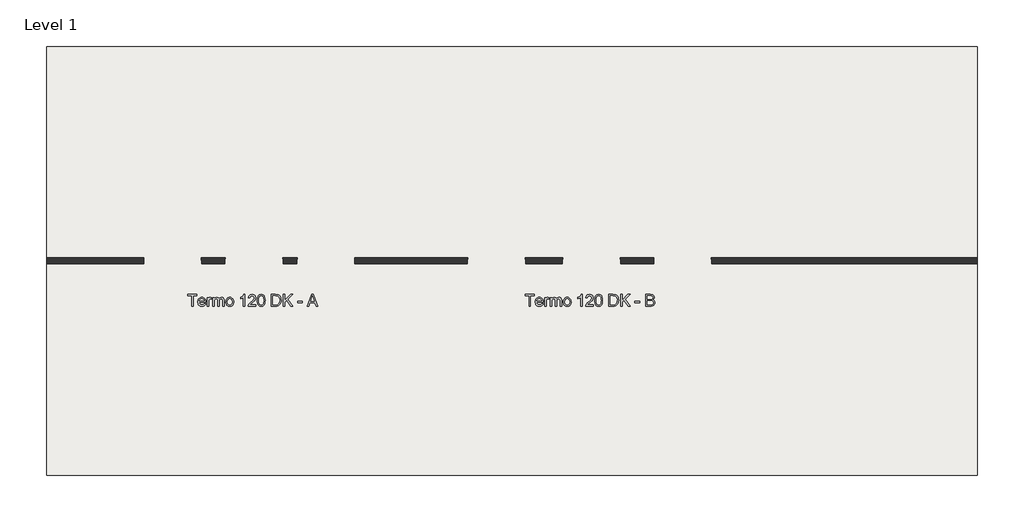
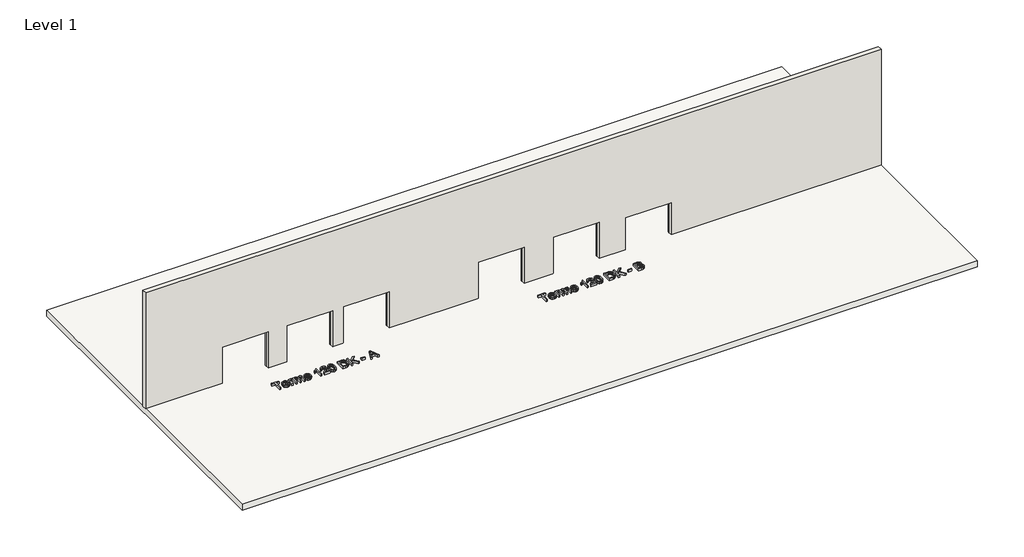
# One storey, incomplete: 2 proxies, 1 slab, 1 wall.
"""IFC4 building model written with IfcOpenShell, lengths in millimetres."""

from ifc_helpers import new_model, si_unit, frame, origin, origin_with_axes, place, context, project, spatial, polyline, outline, extrude, faceted_brep, element, save

model = new_model("IFC4")

# Units and contexts
model_context = context("Model", 3, world=origin())
ifc_project = project(units=[si_unit("LENGTHUNIT", "METRE", prefix="MILLI")], contexts=[model_context])

# Site, building, storey
site = spatial("IfcSite", under=ifc_project)
building = spatial("IfcBuilding", under=site)
storey = spatial("IfcBuildingStorey", under=building, Name="Level 1", Elevation=0.0)

# Proxies
placement = place(None, origin())
element("IfcBuildingElementProxy", 1, Name="600mm Arial", ObjectType="600mm Arial", at=placement, inside=storey, context=model_context, shape_type="SweptSolid", body=[
    extrude(outline(polyline([(-16765.2081941, -2366.0717314), (-16765.2081941, -1838.6761031), (-16962.9815547, -1838.6761031), (-16962.9815547, -1763.3338705), (-16492.0926009, -1763.3338705), (-16492.0926009, -1838.6761031), (-16689.8659615, -1838.6761031), (-16689.8659615, -2366.0717314), (-16765.2081941, -2366.0717314)])), origin_with_axes(), (0.0, 0.0, 1.0), 150.0),
    extrude(outline(polyline([(-16106.8465755, -2234.2228243), (-16032.9758709, -2243.6406034), (-16044.3020378, -2273.2275129), (-16059.5921333, -2299.3011493), (-16078.8461572, -2321.8615127), (-16102.0641096, -2340.908603), (-16129.0068672, -2356.03775), (-16159.4353068, -2366.8442836), (-16193.3494282, -2373.3282038), (-16230.7492315, -2375.4895105), (-16277.4978361, -2371.7601068), (-16319.151275, -2360.5718956), (-16355.7095482, -2341.924877), (-16387.1726559, -2315.8190509), (-16412.4737401, -2282.9809843), (-16430.5459431, -2244.1372441), (-16441.3892649, -2199.2878304), (-16445.0037055, -2148.4327431), (-16441.3524767, -2095.8532089), (-16430.3987903, -2049.5092746), (-16412.1426463, -2009.40094), (-16386.5840447, -1975.5282053), (-16355.2037105, -1948.6176374), (-16319.4823688, -1929.3958031), (-16279.4200195, -1917.8627026), (-16235.0166627, -1914.0183357), (-16192.0434471, -1917.8535055), (-16153.1813128, -1929.3590149), (-16118.4302599, -1948.5348639), (-16087.7902882, -1975.3810525), (-16062.778911, -2009.1802108), (-16044.9136417, -2049.214969), (-16034.19448, -2095.4853269), (-16030.6214261, -2147.9912847), (-16031.0628845, -2168.2983708), (-16369.6614729, -2168.2983708), (-16365.2974727, -2198.3635269), (-16356.6200562, -2224.6946807), (-16343.6292232, -2247.2918322), (-16326.3249739, -2266.1549815), (-16305.6638013, -2281.0266112), (-16282.6021987, -2291.6492038), (-16257.1401661, -2298.0227594), (-16229.2777035, -2300.1472779), (-16189.1785661, -2296.2109405), (-16155.4069989, -2284.4019285), (-16127.9630021, -2263.9844778), (-16106.8465755, -2234.2228243)]), holes=[polyline([(-16369.6614729, -2092.9561382), (-16105.9636588, -2092.9561382), (-16116.15399, -2053.1513063), (-16124.9187786, -2037.4979274), (-16136.1299824, -2024.6772399), (-16156.6761918, -2009.2261961), (-16180.0550926, -1998.1897362), (-16206.2666847, -1991.5678603), (-16235.3109683, -1989.3605684), (-16261.8030704, -1991.1218034), (-16286.0970777, -1996.4055086), (-16308.19299, -2005.2116838), (-16328.0908074, -2017.5403292), (-16344.7880515, -2032.8212276), (-16357.2822438, -2050.4841619), (-16365.5733842, -2070.5291321), (-16369.6614729, -2092.9561382)])]), origin_with_axes(), (0.0, 0.0, 1.0), 150.0),
    extrude(outline(polyline([(-15955.2791935, -2366.0717314), (-15955.2791935, -1923.4361148), (-15889.35474, -1923.4361148), (-15889.35474, -1988.91911), (-15865.0009519, -1950.9536881), (-15842.5601502, -1928.5864628), (-15820.0457721, -1917.6603675), (-15795.4712548, -1914.0183357), (-15757.9472913, -1919.8308713), (-15719.8347166, -1937.2684778), (-15744.9978451, -2004.8116122), (-15771.4853487, -1993.2233293), (-15797.9728524, -1989.3605684), (-15820.4688364, -1993.0761765), (-15840.5735874, -2004.223001), (-15856.8155775, -2021.9549131), (-15867.7232787, -2045.4257844), (-15876.8835404, -2087.5114847), (-15879.9369609, -2133.4231577), (-15879.9369609, -2366.0717314), (-15955.2791935, -2366.0717314)])), origin_with_axes(), (0.0, 0.0, 1.0), 150.0),
    extrude(outline(polyline([(-15672.7458212, -2366.0717314), (-15672.7458212, -1923.4361148), (-15597.4035886, -1923.4361148), (-15597.4035886, -1996.2767499), (-15574.7420577, -1962.8178824), (-15545.6058037, -1936.6062903), (-15510.988108, -1919.6653244), (-15471.8822519, -1914.0183357), (-15429.9804926, -1919.775689), (-15412.1474129, -1926.9723805), (-15396.3928665, -1937.0477486), (-15371.3033144, -1964.6940806), (-15354.8957774, -2001.5742506), (-15327.4333865, -1963.2685379), (-15296.1082346, -1935.9073145), (-15260.9203217, -1919.4905804), (-15221.8696479, -1914.0183357), (-15191.7079229, -1916.2946056), (-15165.2342148, -1923.1234151), (-15142.4485237, -1934.5047644), (-15123.3508496, -1950.4386533), (-15108.2538923, -1971.1090229), (-15097.4703513, -1996.6998142), (-15091.0002267, -2027.2110271), (-15088.8435185, -2062.6426618), (-15088.8435185, -2366.0717314), (-15164.1857511, -2366.0717314), (-15164.1857511, -2095.0162774), (-15165.9331906, -2057.4371316), (-15171.175509, -2032.1084562), (-15180.9979583, -2014.7628201), (-15196.4857903, -2001.1327922), (-15216.4066003, -1992.3036243), (-15239.5279837, -1989.3605684), (-15260.878935, -1991.2459636), (-15280.3444911, -1996.9021493), (-15297.9246519, -2006.3291254), (-15313.6194175, -2019.526892), (-15326.5274771, -2036.8817251), (-15335.7475196, -2058.7799008), (-15341.2795451, -2085.2214193), (-15343.1235536, -2116.2062803), (-15343.1235536, -2366.0717314), (-15418.4657862, -2366.0717314), (-15418.4657862, -2086.6285679), (-15422.8251878, -2044.0278328), (-15428.2744399, -2027.3075962), (-15435.9033927, -2013.64078), (-15446.0155491, -2003.0181874), (-15458.9144115, -1995.4306213), (-15474.5999801, -1990.8780816), (-15493.0722548, -1989.3605684), (-15522.0981442, -1993.4072703), (-15548.8431653, -2005.5473761), (-15570.916085, -2025.4865803), (-15585.9256704, -2052.9305771), (-15594.5341091, -2091.0063636), (-15597.4035886, -2142.8409367), (-15597.4035886, -2366.0717314), (-15672.7458212, -2366.0717314)])), origin_with_axes(), (0.0, 0.0, 1.0), 150.0),
    extrude(outline(polyline([(-14994.6657277, -2144.7539231), (-14990.5914346, -2087.4287112), (-14978.3685553, -2038.0313563), (-14957.9970899, -1996.5618584), (-14929.4770382, -1963.0202175), (-14900.7638485, -1941.5818942), (-14869.0708146, -1926.2688062), (-14834.3979365, -1917.0809534), (-14796.7452143, -1914.0183357), (-14755.1791474, -1917.7477395), (-14717.5954031, -1928.9359507), (-14683.9939813, -1947.5829693), (-14654.3748822, -1973.6887954), (-14630.2004366, -2006.3705121), (-14612.9329754, -2044.7452027), (-14602.5724987, -2088.8128672), (-14599.1190065, -2138.5735056), (-14600.6457168, -2178.9025693), (-14605.2258476, -2214.6882904), (-14612.859399, -2245.9306688), (-14623.546371, -2272.6297046), (-14637.1534063, -2295.6913072), (-14653.5471477, -2316.021386), (-14672.7275952, -2333.6199409), (-14694.6947489, -2348.4869721), (-14718.593283, -2360.3005826), (-14743.5678719, -2368.7388759), (-14769.6185157, -2373.8018518), (-14796.7452143, -2375.4895105), (-14838.9182865, -2371.7739023), (-14876.8515188, -2360.6270779), (-14910.544911, -2342.0490371), (-14939.9984632, -2316.0397801), (-14963.9153915, -2283.0407651), (-14980.9989116, -2243.4934506), (-14991.2490237, -2197.3978366), (-14994.6657277, -2144.7539231)]), holes=[polyline([(-14919.3234951, -2144.6067703), (-14917.1437943, -2181.151248), (-14910.6046918, -2212.7936981), (-14899.7061877, -2239.5341207), (-14884.448282, -2261.3725156), (-14865.8886353, -2278.3364741), (-14845.0849085, -2290.4535873), (-14822.0371015, -2297.7238552), (-14796.7452143, -2300.1472779), (-14771.5820859, -2297.7100597), (-14748.6262494, -2290.398405), (-14727.8777048, -2278.2123139), (-14709.3364523, -2261.1517864), (-14694.0785465, -2239.0972608), (-14683.1800424, -2211.9291754), (-14676.6409399, -2179.6475304), (-14674.4612391, -2142.2523256), (-14676.6547355, -2106.8666761), (-14683.2352247, -2076.0519605), (-14694.2027067, -2049.8081787), (-14709.5571815, -2028.1353307), (-14728.1674119, -2011.1713721), (-14748.9021608, -1999.0542589), (-14771.7614283, -1991.783991), (-14796.7452143, -1989.3605684), (-14822.0371015, -1991.774794), (-14845.0849085, -1999.0174707), (-14865.8886353, -2011.0885987), (-14884.448282, -2027.9881779), (-14899.7061877, -2049.7621934), (-14910.6046918, -2076.4566307), (-14917.1437943, -2108.0714897), (-14919.3234951, -2144.6067703)])]), origin_with_axes(), (0.0, 0.0, 1.0), 150.0),
    extrude(outline(polyline([(-14015.2167038, -2366.0717314), (-14090.5589364, -2366.0717314), (-14090.5589364, -1896.36), (-14122.012847, -1921.7990399), (-14161.9280434, -1947.2012917), (-14203.8298027, -1969.4029701), (-14241.2434016, -1985.24029), (-14241.2434016, -1914.0183357), (-14182.0695827, -1881.8286612), (-14130.8052267, -1843.5321455), (-14090.3933895, -1802.8076086), (-14063.7771271, -1763.3338705), (-14015.2167038, -1763.3338705), (-14015.2167038, -2366.0717314)])), origin_with_axes(), (0.0, 0.0, 1.0), 150.0),
    extrude(outline(polyline([(-13450.1499592, -2290.7294988), (-13450.1499592, -2366.0717314), (-13845.6966804, -2366.0717314), (-13844.0412114, -2339.5474396), (-13837.6032765, -2314.1267937), (-13819.0252357, -2273.5310155), (-13791.8387563, -2234.149248), (-13752.512171, -2192.9280704), (-13697.5138127, -2146.8140623), (-13616.2118918, -2074.5988266), (-13567.4307392, -2021.2927255), (-13553.2029031, -1999.5141114), (-13543.040163, -1978.0298029), (-13536.9425189, -1956.8398), (-13534.9099709, -1935.9441027), (-13536.8275558, -1916.2854085), (-13542.5803105, -1898.2178041), (-13552.168235, -1881.7412892), (-13565.5913293, -1866.855864), (-13582.1046323, -1854.5272186), (-13600.9631831, -1845.7210433), (-13622.1669816, -1840.4373382), (-13645.7160278, -1838.6761031), (-13670.5250699, -1840.3959515), (-13692.7129527, -1845.5554964), (-13712.2796763, -1854.1547381), (-13729.2252407, -1866.1936764), (-13742.9334436, -1881.2676411), (-13752.7880825, -1898.9719621), (-13758.7891576, -1919.3066394), (-13760.9366687, -1942.271673), (-13836.2789013, -1932.8538939), (-13829.7995797, -1893.95957), (-13818.0135603, -1859.9764707), (-13800.9208431, -1830.904596), (-13778.5214281, -1806.743946), (-13751.3303501, -1787.752038), (-13719.8626439, -1774.1863894), (-13684.1183096, -1766.0470002), (-13644.097347, -1763.3338705), (-13603.7176995, -1766.3505029), (-13567.7802271, -1775.4004), (-13536.2849298, -1790.4835618), (-13509.2318076, -1811.5999883), (-13487.5037773, -1837.1861811), (-13471.9837556, -1865.6786416), (-13462.6717426, -1897.0773699), (-13459.5677383, -1931.3823659), (-13462.9154644, -1967.4164073), (-13472.9586429, -2002.8250494), (-13490.7825255, -2038.8406967), (-13517.4723643, -2076.695754), (-13560.017917, -2121.8900571), (-13625.4089417, -2179.9234419), (-13712.0819397, -2252.3961949), (-13746.0742361, -2290.7294988), (-13450.1499592, -2290.7294988)])), origin_with_axes(), (0.0, 0.0, 1.0), 150.0),
    extrude(outline(polyline([(-13374.8077266, -2069.5588433), (-13369.2711025, -1973.0817901), (-13362.3503225, -1932.1687137), (-13352.6612305, -1896.1392708), (-13340.2452131, -1864.6991558), (-13325.1436572, -1837.554063), (-13307.3565627, -1814.7039926), (-13286.8839297, -1796.1489445), (-13263.6567802, -1781.7923496), (-13237.6061365, -1771.537639), (-13208.7319984, -1765.3848126), (-13177.034366, -1763.3338705), (-13130.6076582, -1768.1899129), (-13089.0369927, -1782.7580399), (-13054.2721442, -1806.4680345), (-13028.2628871, -1838.7496795), (-13008.6179886, -1879.3270636), (-12992.9462156, -1927.9242752), (-12982.6823079, -1989.6364799), (-12979.2610053, -2069.5588433), (-12984.7424471, -2165.4840736), (-12991.5942492, -2206.2591942), (-13001.1867723, -2242.2426518), (-13013.5062206, -2273.6965624), (-13028.5387986, -2300.8830419), (-13046.2845063, -2323.8020902), (-13066.7433438, -2342.4537073), (-13089.9980844, -2356.9068712), (-13116.1315017, -2367.2305597), (-13145.1435955, -2373.4247728), (-13177.034366, -2375.4895105), (-13218.531455, -2371.902661), (-13255.3196545, -2361.1421127), (-13287.3989645, -2343.2078654), (-13314.769385, -2318.0999192), (-13341.0361594, -2272.7124781), (-13359.7981412, -2216.1598184), (-13371.0553302, -2148.4419401), (-13374.8077266, -2069.5588433)]), holes=[polyline([(-13299.465494, -2069.4116905), (-13297.258202, -2134.9084812), (-13290.6363261, -2187.9248753), (-13279.5998662, -2228.4608726), (-13264.1488224, -2256.5164733), (-13245.4604171, -2275.6049503), (-13224.7118725, -2289.2395767), (-13201.9031888, -2297.4203526), (-13177.034366, -2300.1472779), (-13152.1655431, -2297.4111555), (-13129.3568594, -2289.2027885), (-13108.6083149, -2275.5221768), (-13089.9199095, -2256.3693205), (-13074.4688657, -2228.2677346), (-13063.4324058, -2187.7409343), (-13056.8105299, -2134.7889196), (-13054.603238, -2069.4116905), (-13056.7369535, -2005.6485437), (-13063.1381003, -1953.5656502), (-13073.8066781, -1913.1630101), (-13088.7426871, -1884.4406233), (-13107.1183928, -1864.4186457), (-13128.1060606, -1850.1172332), (-13151.7056906, -1841.5363856), (-13177.9172827, -1838.6761031), (-13202.6573469, -1841.1960948), (-13225.0797545, -1848.7560698), (-13245.1845056, -1861.3560281), (-13262.9716, -1878.9959698), (-13278.9376786, -1910.2659394), (-13290.3420205, -1952.425216), (-13297.1846256, -2005.4737997), (-13299.465494, -2069.4116905)])]), origin_with_axes(), (0.0, 0.0, 1.0), 150.0),
    extrude(outline(polyline([(-12649.6387377, -2366.0717314), (-12649.6387377, -1763.3338705), (-12441.711834, -1763.3338705), (-12379.576565, -1765.5043743), (-12334.1431386, -1772.0158856), (-12286.09775, -1788.7545164), (-12245.5571542, -1815.1316554), (-12223.21752, -1836.6895404), (-12203.8761241, -1861.0433284), (-12187.5329665, -1888.1930197), (-12174.1880471, -1918.1386141), (-12163.8229719, -1950.6042002), (-12156.4193467, -1985.3138664), (-12150.4964466, -2061.4654394), (-12154.5063604, -2126.1574883), (-12166.5361016, -2183.087227), (-12184.856625, -2231.5556799), (-12207.7388851, -2270.8638711), (-12234.0792359, -2301.8947174), (-12262.7740315, -2325.5311356), (-12295.7178642, -2343.0607126), (-12334.8053262, -2355.7710356), (-12380.1099939, -2363.4965575), (-12431.7054437, -2366.0717314), (-12649.6387377, -2366.0717314)]), holes=[polyline([(-12574.2965051, -2290.7294988), (-12440.97607, -2290.7294988), (-12385.8305589, -2288.007172), (-12344.0023761, -2279.8401918), (-12312.4381009, -2266.7068045), (-12288.0843128, -2249.085257), (-12261.9095089, -2216.4725181), (-12242.2462162, -2174.2580591), (-12229.9405635, -2122.2579391), (-12225.8386792, -2060.288217), (-12227.8482346, -2016.5470478), (-12233.8769008, -1978.1769557), (-12243.9246778, -1945.1779407), (-12257.9915656, -1917.5500029), (-12274.93713, -1894.6677428), (-12293.6209368, -1875.905761), (-12314.0429861, -1861.2640576), (-12336.2032778, -1850.7426326), (-12379.5397768, -1841.6927355), (-12443.0362092, -1838.6761031), (-12574.2965051, -1838.6761031), (-12574.2965051, -2290.7294988)])]), origin_with_axes(), (0.0, 0.0, 1.0), 150.0),
    extrude(outline(polyline([(-12046.9008768, -2366.0717314), (-12046.9008768, -1763.3338705), (-11971.5586442, -1763.3338705), (-11971.5586442, -2058.3752307), (-11662.5377682, -1763.3338705), (-11557.1763648, -1763.3338705), (-11816.6067478, -2011.1391825), (-11547.7585857, -2366.0717314), (-11639.8762373, -2366.0717314), (-11870.0232135, -2062.0540506), (-11971.5586442, -2158.8805917), (-11971.5586442, -2366.0717314), (-12046.9008768, -2366.0717314)])), origin_with_axes(), (0.0, 0.0, 1.0), 150.0),
    extrude(outline(polyline([(-11302.8963297, -2187.133929), (-11302.8963297, -2111.7916964), (-11067.4518528, -2111.7916964), (-11067.4518528, -2187.133929), (-11302.8963297, -2187.133929)])), origin_with_axes(), (0.0, 0.0, 1.0), 150.0),
    extrude(outline(polyline([(-10808.0214698, -2366.0717314), (-10567.426645, -1763.3338705), (-10503.268025, -1763.3338705), (-10262.6732002, -2366.0717314), (-10342.2828639, -2366.0717314), (-10411.2975262, -2177.7161499), (-10659.5442966, -2177.7161499), (-10728.4118061, -2366.0717314), (-10808.0214698, -2366.0717314)]), holes=[polyline([(-10631.8795705, -2102.3739173), (-10438.8150995, -2102.3739173), (-10493.1144819, -1954.1910496), (-10535.347335, -1838.6761031), (-10572.8712985, -1941.2416034), (-10631.8795705, -2102.3739173)])]), origin_with_axes(), (0.0, 0.0, 1.0), 150.0),
])
element("IfcBuildingElementProxy", 2, Name="600mm Arial", ObjectType="600mm Arial", at=placement, inside=storey, context=model_context, shape_type="SweptSolid", body=[
    extrude(outline(polyline([(634.7918059, -2366.0717314), (634.7918059, -1838.6761031), (437.0184453, -1838.6761031), (437.0184453, -1763.3338705), (907.9073991, -1763.3338705), (907.9073991, -1838.6761031), (710.1340385, -1838.6761031), (710.1340385, -2366.0717314), (634.7918059, -2366.0717314)])), origin_with_axes(), (0.0, 0.0, 1.0), 150.0),
    extrude(outline(polyline([(1293.1534245, -2234.2228243), (1367.0241291, -2243.6406034), (1355.6979622, -2273.2275129), (1340.4078667, -2299.3011493), (1321.1538428, -2321.8615127), (1297.9358904, -2340.908603), (1270.9931328, -2356.03775), (1240.5646932, -2366.8442836), (1206.6505718, -2373.3282038), (1169.2507685, -2375.4895105), (1122.5021639, -2371.7601068), (1080.848725, -2360.5718956), (1044.2904518, -2341.924877), (1012.8273441, -2315.8190509), (987.5262599, -2282.9809843), (969.4540569, -2244.1372441), (958.6107351, -2199.2878304), (954.9962945, -2148.4327431), (958.6475233, -2095.8532089), (969.6012097, -2049.5092746), (987.8573537, -2009.40094), (1013.4159553, -1975.5282053), (1044.7962895, -1948.6176374), (1080.5176312, -1929.3958031), (1120.5799805, -1917.8627026), (1164.9833373, -1914.0183357), (1207.9565529, -1917.8535055), (1246.8186872, -1929.3590149), (1281.5697401, -1948.5348639), (1312.2097118, -1975.3810525), (1337.221089, -2009.1802108), (1355.0863583, -2049.214969), (1365.80552, -2095.4853269), (1369.3785739, -2147.9912847), (1368.9371155, -2168.2983708), (1030.3385271, -2168.2983708), (1034.7025273, -2198.3635269), (1043.3799438, -2224.6946807), (1056.3707768, -2247.2918322), (1073.6750261, -2266.1549815), (1094.3361987, -2281.0266112), (1117.3978013, -2291.6492038), (1142.8598339, -2298.0227594), (1170.7222965, -2300.1472779), (1210.8214339, -2296.2109405), (1244.5930011, -2284.4019285), (1272.0369979, -2263.9844778), (1293.1534245, -2234.2228243)]), holes=[polyline([(1030.3385271, -2092.9561382), (1294.0363412, -2092.9561382), (1283.84601, -2053.1513063), (1275.0812214, -2037.4979274), (1263.8700176, -2024.6772399), (1243.3238082, -2009.2261961), (1219.9449074, -1998.1897362), (1193.7333153, -1991.5678603), (1164.6890317, -1989.3605684), (1138.1969296, -1991.1218034), (1113.9029223, -1996.4055086), (1091.80701, -2005.2116838), (1071.9091926, -2017.5403292), (1055.2119485, -2032.8212276), (1042.7177562, -2050.4841619), (1034.4266158, -2070.5291321), (1030.3385271, -2092.9561382)])]), origin_with_axes(), (0.0, 0.0, 1.0), 150.0),
    extrude(outline(polyline([(1444.7208065, -2366.0717314), (1444.7208065, -1923.4361148), (1510.64526, -1923.4361148), (1510.64526, -1988.91911), (1534.9990481, -1950.9536881), (1557.4398498, -1928.5864628), (1579.9542279, -1917.6603675), (1604.5287452, -1914.0183357), (1642.0527087, -1919.8308713), (1680.1652834, -1937.2684778), (1655.0021549, -2004.8116122), (1628.5146513, -1993.2233293), (1602.0271476, -1989.3605684), (1579.5311636, -1993.0761765), (1559.4264126, -2004.223001), (1543.1844225, -2021.9549131), (1532.2767213, -2045.4257844), (1523.1164596, -2087.5114847), (1520.0630391, -2133.4231577), (1520.0630391, -2366.0717314), (1444.7208065, -2366.0717314)])), origin_with_axes(), (0.0, 0.0, 1.0), 150.0),
    extrude(outline(polyline([(1727.2541788, -2366.0717314), (1727.2541788, -1923.4361148), (1802.5964114, -1923.4361148), (1802.5964114, -1996.2767499), (1825.2579423, -1962.8178824), (1854.3941963, -1936.6062903), (1889.011892, -1919.6653244), (1928.1177481, -1914.0183357), (1970.0195074, -1919.775689), (1987.8525871, -1926.9723805), (2003.6071335, -1937.0477486), (2028.6966856, -1964.6940806), (2045.1042226, -2001.5742506), (2072.5666135, -1963.2685379), (2103.8917654, -1935.9073145), (2139.0796783, -1919.4905804), (2178.1303521, -1914.0183357), (2208.2920771, -1916.2946056), (2234.7657852, -1923.1234151), (2257.5514763, -1934.5047644), (2276.6491504, -1950.4386533), (2291.7461077, -1971.1090229), (2302.5296487, -1996.6998142), (2308.9997733, -2027.2110271), (2311.1564815, -2062.6426618), (2311.1564815, -2366.0717314), (2235.8142489, -2366.0717314), (2235.8142489, -2095.0162774), (2234.0668094, -2057.4371316), (2228.824491, -2032.1084562), (2219.0020417, -2014.7628201), (2203.5142097, -2001.1327922), (2183.5933997, -1992.3036243), (2160.4720163, -1989.3605684), (2139.121065, -1991.2459636), (2119.6555089, -1996.9021493), (2102.0753481, -2006.3291254), (2086.3805825, -2019.526892), (2073.4725229, -2036.8817251), (2064.2524804, -2058.7799008), (2058.7204549, -2085.2214193), (2056.8764464, -2116.2062803), (2056.8764464, -2366.0717314), (1981.5342138, -2366.0717314), (1981.5342138, -2086.6285679), (1977.1748122, -2044.0278328), (1971.7255601, -2027.3075962), (1964.0966073, -2013.64078), (1953.9844509, -2003.0181874), (1941.0855885, -1995.4306213), (1925.4000199, -1990.8780816), (1906.9277452, -1989.3605684), (1877.9018558, -1993.4072703), (1851.1568347, -2005.5473761), (1829.083915, -2025.4865803), (1814.0743296, -2052.9305771), (1805.4658909, -2091.0063636), (1802.5964114, -2142.8409367), (1802.5964114, -2366.0717314), (1727.2541788, -2366.0717314)])), origin_with_axes(), (0.0, 0.0, 1.0), 150.0),
    extrude(outline(polyline([(2405.3342723, -2144.7539231), (2409.4085654, -2087.4287112), (2421.6314447, -2038.0313563), (2442.0029101, -1996.5618584), (2470.5229618, -1963.0202175), (2499.2361515, -1941.5818942), (2530.9291854, -1926.2688062), (2565.6020635, -1917.0809534), (2603.2547857, -1914.0183357), (2644.8208526, -1917.7477395), (2682.4045969, -1928.9359507), (2716.0060187, -1947.5829693), (2745.6251178, -1973.6887954), (2769.7995634, -2006.3705121), (2787.0670246, -2044.7452027), (2797.4275013, -2088.8128672), (2800.8809935, -2138.5735056), (2799.3542832, -2178.9025693), (2794.7741524, -2214.6882904), (2787.140601, -2245.9306688), (2776.453629, -2272.6297046), (2762.8465937, -2295.6913072), (2746.4528523, -2316.021386), (2727.2724048, -2333.6199409), (2705.3052511, -2348.4869721), (2681.406717, -2360.3005826), (2656.4321281, -2368.7388759), (2630.3814843, -2373.8018518), (2603.2547857, -2375.4895105), (2561.0817135, -2371.7739023), (2523.1484812, -2360.6270779), (2489.455089, -2342.0490371), (2460.0015368, -2316.0397801), (2436.0846085, -2283.0407651), (2419.0010884, -2243.4934506), (2408.7509763, -2197.3978366), (2405.3342723, -2144.7539231)]), holes=[polyline([(2480.6765049, -2144.6067703), (2482.8562057, -2181.151248), (2489.3953082, -2212.7936981), (2500.2938123, -2239.5341207), (2515.551718, -2261.3725156), (2534.1113647, -2278.3364741), (2554.9150915, -2290.4535873), (2577.9628985, -2297.7238552), (2603.2547857, -2300.1472779), (2628.4179141, -2297.7100597), (2651.3737506, -2290.398405), (2672.1222952, -2278.2123139), (2690.6635477, -2261.1517864), (2705.9214535, -2239.0972608), (2716.8199576, -2211.9291754), (2723.3590601, -2179.6475304), (2725.5387609, -2142.2523256), (2723.3452645, -2106.8666761), (2716.7647753, -2076.0519605), (2705.7972933, -2049.8081787), (2690.4428185, -2028.1353307), (2671.8325881, -2011.1713721), (2651.0978392, -1999.0542589), (2628.2385717, -1991.783991), (2603.2547857, -1989.3605684), (2577.9628985, -1991.774794), (2554.9150915, -1999.0174707), (2534.1113647, -2011.0885987), (2515.551718, -2027.9881779), (2500.2938123, -2049.7621934), (2489.3953082, -2076.4566307), (2482.8562057, -2108.0714897), (2480.6765049, -2144.6067703)])]), origin_with_axes(), (0.0, 0.0, 1.0), 150.0),
    extrude(outline(polyline([(3384.7832962, -2366.0717314), (3309.4410636, -2366.0717314), (3309.4410636, -1896.36), (3277.987153, -1921.7990399), (3238.0719566, -1947.2012917), (3196.1701973, -1969.4029701), (3158.7565984, -1985.24029), (3158.7565984, -1914.0183357), (3217.9304173, -1881.8286612), (3269.1947733, -1843.5321455), (3309.6066105, -1802.8076086), (3336.2228729, -1763.3338705), (3384.7832962, -1763.3338705), (3384.7832962, -2366.0717314)])), origin_with_axes(), (0.0, 0.0, 1.0), 150.0),
    extrude(outline(polyline([(3949.8500408, -2290.7294988), (3949.8500408, -2366.0717314), (3554.3033196, -2366.0717314), (3555.9587886, -2339.5474396), (3562.3967235, -2314.1267937), (3580.9747643, -2273.5310155), (3608.1612437, -2234.149248), (3647.487829, -2192.9280704), (3702.4861873, -2146.8140623), (3783.7881082, -2074.5988266), (3832.5692608, -2021.2927255), (3846.7970969, -1999.5141114), (3856.959837, -1978.0298029), (3863.0574811, -1956.8398), (3865.0900291, -1935.9441027), (3863.1724442, -1916.2854085), (3857.4196895, -1898.2178041), (3847.831765, -1881.7412892), (3834.4086707, -1866.855864), (3817.8953677, -1854.5272186), (3799.0368169, -1845.7210433), (3777.8330184, -1840.4373382), (3754.2839722, -1838.6761031), (3729.4749301, -1840.3959515), (3707.2870473, -1845.5554964), (3687.7203237, -1854.1547381), (3670.7747593, -1866.1936764), (3657.0665564, -1881.2676411), (3647.2119175, -1898.9719621), (3641.2108424, -1919.3066394), (3639.0633313, -1942.271673), (3563.7210987, -1932.8538939), (3570.2004203, -1893.95957), (3581.9864397, -1859.9764707), (3599.0791569, -1830.904596), (3621.4785719, -1806.743946), (3648.6696499, -1787.752038), (3680.1373561, -1774.1863894), (3715.8816904, -1766.0470002), (3755.902653, -1763.3338705), (3796.2823005, -1766.3505029), (3832.2197729, -1775.4004), (3863.7150702, -1790.4835618), (3890.7681924, -1811.5999883), (3912.4962227, -1837.1861811), (3928.0162444, -1865.6786416), (3937.3282574, -1897.0773699), (3940.4322617, -1931.3823659), (3937.0845356, -1967.4164073), (3927.0413571, -2002.8250494), (3909.2174745, -2038.8406967), (3882.5276357, -2076.695754), (3839.982083, -2121.8900571), (3774.5910583, -2179.9234419), (3687.9180603, -2252.3961949), (3653.9257639, -2290.7294988), (3949.8500408, -2290.7294988)])), origin_with_axes(), (0.0, 0.0, 1.0), 150.0),
    extrude(outline(polyline([(4025.1922734, -2069.5588433), (4030.7288975, -1973.0817901), (4037.6496775, -1932.1687137), (4047.3387695, -1896.1392708), (4059.7547869, -1864.6991558), (4074.8563428, -1837.5540631), (4092.6434373, -1814.7039926), (4113.1160703, -1796.1489445), (4136.3432198, -1781.7923496), (4162.3938635, -1771.537639), (4191.2680016, -1765.3848126), (4222.965634, -1763.3338705), (4269.3923418, -1768.1899129), (4310.9630073, -1782.7580399), (4345.7278558, -1806.4680345), (4371.7371129, -1838.7496795), (4391.3820114, -1879.3270636), (4407.0537844, -1927.9242752), (4417.3176921, -1989.6364799), (4420.7389947, -2069.5588433), (4415.2575529, -2165.4840736), (4408.4057508, -2206.2591942), (4398.8132277, -2242.2426518), (4386.4937794, -2273.6965624), (4371.4612014, -2300.8830419), (4353.7154937, -2323.8020902), (4333.2566562, -2342.4537073), (4310.0019156, -2356.9068712), (4283.8684983, -2367.2305597), (4254.8564045, -2373.4247728), (4222.965634, -2375.4895105), (4181.468545, -2371.902661), (4144.6803455, -2361.1421127), (4112.6010355, -2343.2078654), (4085.230615, -2318.0999192), (4058.9638406, -2272.7124781), (4040.2018588, -2216.1598184), (4028.9446698, -2148.4419401), (4025.1922734, -2069.5588433)]), holes=[polyline([(4100.534506, -2069.4116905), (4102.741798, -2134.9084812), (4109.3636739, -2187.9248753), (4120.4001338, -2228.4608726), (4135.8511776, -2256.5164733), (4154.5395829, -2275.6049503), (4175.2881275, -2289.2395767), (4198.0968112, -2297.4203526), (4222.965634, -2300.1472779), (4247.8344569, -2297.4111555), (4270.6431406, -2289.2027885), (4291.3916851, -2275.5221768), (4310.0800905, -2256.3693205), (4325.5311343, -2228.2677346), (4336.5675942, -2187.7409343), (4343.1894701, -2134.7889196), (4345.396762, -2069.4116905), (4343.2630465, -2005.6485437), (4336.8618997, -1953.5656502), (4326.1933219, -1913.1630101), (4311.2573129, -1884.4406233), (4292.8816072, -1864.4186457), (4271.8939394, -1850.1172332), (4248.2943094, -1841.5363856), (4222.0827173, -1838.6761031), (4197.3426531, -1841.1960948), (4174.9202455, -1848.7560698), (4154.8154944, -1861.3560281), (4137.0284, -1878.9959698), (4121.0623214, -1910.2659394), (4109.6579795, -1952.425216), (4102.8153744, -2005.4737997), (4100.534506, -2069.4116905)])]), origin_with_axes(), (0.0, 0.0, 1.0), 150.0),
    extrude(outline(polyline([(4750.3612623, -2366.0717314), (4750.3612623, -1763.3338705), (4958.288166, -1763.3338705), (5020.423435, -1765.5043743), (5065.8568614, -1772.0158856), (5113.90225, -1788.7545164), (5154.4428458, -1815.1316554), (5176.78248, -1836.6895404), (5196.1238759, -1861.0433284), (5212.4670335, -1888.1930197), (5225.8119529, -1918.1386141), (5236.1770281, -1950.6042002), (5243.5806533, -1985.3138664), (5249.5035534, -2061.4654394), (5245.4936396, -2126.1574883), (5233.4638984, -2183.087227), (5215.143375, -2231.5556799), (5192.2611149, -2270.8638711), (5165.9207641, -2301.8947174), (5137.2259685, -2325.5311356), (5104.2821358, -2343.0607126), (5065.1946738, -2355.7710356), (5019.8900061, -2363.4965575), (4968.2945563, -2366.0717314), (4750.3612623, -2366.0717314)]), holes=[polyline([(4825.7034949, -2290.7294988), (4959.02393, -2290.7294988), (5014.1694411, -2288.007172), (5055.9976239, -2279.8401918), (5087.5618991, -2266.7068045), (5111.9156872, -2249.085257), (5138.0904911, -2216.4725181), (5157.7537838, -2174.2580591), (5170.0594365, -2122.2579391), (5174.1613208, -2060.288217), (5172.1517654, -2016.5470478), (5166.1230992, -1978.1769557), (5156.0753222, -1945.1779407), (5142.0084344, -1917.5500029), (5125.06287, -1894.6677428), (5106.3790632, -1875.905761), (5085.9570139, -1861.2640576), (5063.7967222, -1850.7426326), (5020.4602232, -1841.6927355), (4956.9637908, -1838.6761031), (4825.7034949, -1838.6761031), (4825.7034949, -2290.7294988)])]), origin_with_axes(), (0.0, 0.0, 1.0), 150.0),
    extrude(outline(polyline([(5353.0991232, -2366.0717314), (5353.0991232, -1763.3338705), (5428.4413558, -1763.3338705), (5428.4413558, -2058.3752307), (5737.4622318, -1763.3338705), (5842.8236352, -1763.3338705), (5583.3932522, -2011.1391825), (5852.2414143, -2366.0717314), (5760.1237627, -2366.0717314), (5529.9767865, -2062.0540506), (5428.4413558, -2158.8805917), (5428.4413558, -2366.0717314), (5353.0991232, -2366.0717314)])), origin_with_axes(), (0.0, 0.0, 1.0), 150.0),
    extrude(outline(polyline([(6097.1036703, -2187.133929), (6097.1036703, -2111.7916964), (6332.5481472, -2111.7916964), (6332.5481472, -2187.133929), (6097.1036703, -2187.133929)])), origin_with_axes(), (0.0, 0.0, 1.0), 150.0),
    extrude(outline(polyline([(6662.1704149, -2366.0717314), (6662.1704149, -1763.3338705), (6892.1702382, -1763.3338705), (6955.4275473, -1767.7668486), (7004.8157052, -1781.0657827), (7024.8928651, -1791.1227567), (7042.6707625, -1803.5617667), (7058.1493974, -1818.3828126), (7071.3287699, -1835.5858944), (7089.3733818, -1873.2570107), (7095.3882524, -1912.6939606), (7090.3298749, -1948.9855194), (7075.1547426, -1983.1065744), (7049.7524909, -2012.9601984), (7014.0127551, -2036.4494637), (7036.7524609, -2046.1431543), (7056.7054606, -2058.7431127), (7073.8717542, -2074.2493387), (7088.2513417, -2092.6618326), (7099.6142968, -2113.4195742), (7107.7306933, -2135.9615434), (7112.6005312, -2160.2877404), (7114.2238105, -2186.398165), (7109.7908325, -2228.4286829), (7096.4918984, -2267.4057803), (7076.6446647, -2300.5519481), (7052.5667881, -2325.0896772), (7023.0810462, -2342.8583775), (6987.0102166, -2355.6974592), (6943.1770769, -2363.4781634), (6890.4044047, -2366.0717314), (6662.1704149, -2366.0717314)]), holes=[polyline([(6737.5126475, -2008.1961265), (6875.1005137, -2008.1961265), (6923.2194786, -2006.5774457), (6955.4459414, -2001.7214034), (6983.5705199, -1990.5561848), (7003.7856356, -1973.8359482), (7015.9809237, -1951.8182108), (7020.0460198, -1924.76049), (7016.2568352, -1898.4937156), (7004.8892816, -1875.6114555), (6986.4583936, -1857.7507846), (6961.4792061, -1846.5487778), (6923.1459022, -1840.6442718), (6864.652665, -1838.6761031), (6737.5126475, -1838.6761031), (6737.5126475, -2008.1961265)]), polyline([(6737.5126475, -2290.7294988), (6892.0230854, -2290.7294988), (6947.9411487, -2287.7864428), (6973.8952235, -2281.2565374), (6995.2507733, -2271.3789059), (7012.6148035, -2257.2338431), (7026.5943193, -2237.9016443), (7035.8097633, -2214.246832), (7038.8815779, -2187.133929), (7035.2763344, -2155.6432302), (7024.4606037, -2128.5671153), (7005.5698633, -2107.3955065), (6977.7395903, -2093.6183258), (6938.3210345, -2086.0583508), (6884.6654455, -2083.5383591), (6737.5126475, -2083.5383591), (6737.5126475, -2290.7294988)])]), origin_with_axes(), (0.0, 0.0, 1.0), 150.0),
])

# Slab
element("IfcSlab", 3, ObjectType="Generic Floor - 400mm", at=placement, inside=storey, context=model_context, shape_type="SweptSolid", body=[
    extrude(outline(polyline([(-24243.7227392, -11078.5076479), (-24243.7227392, 11021.4923521), (23756.2772608, 11021.4923521), (23756.2772608, -11078.5076479), (-24243.7227392, -11078.5076479)])), frame((0.0, 0.0, -400.0), z_axis=(0.0, 0.0, 1.0), x_axis=(1.0, 0.0, 0.0)), (0.0, 0.0, 1.0), 400.0),
])

# Wall
element("IfcWall", 4, ObjectType="Generic - 300mm", at=placement, inside=storey, context=model_context, shape_type="Brep", body=[
    faceted_brep([(23756.2772608, -178.5076479, 0.0), (23756.2772608, -178.5076479, 8000.0), (-24243.7227392, -178.5076479, 8000.0), (-24243.7227392, -178.5076479, 0.0), (-19243.7227392, -178.5076479, 0.0), (-19243.7227392, -178.5076479, 2500.0), (-16243.7227392, -178.5076479, 2500.0), (-16243.7227392, -178.5076479, 0.0), (-15043.7227392, -178.5076479, 0.0), (-15043.7227392, -178.5076479, 2499.9997946), (-12043.7227392, -178.5076479, 2499.9997946), (-12043.7227392, -178.5076479, 0.0), (-11343.7227392, -178.5076479, 0.0), (-11343.7227392, -178.5076479, 2500.0), (-8343.7227392, -178.5076479, 2500.0), (-8343.7227392, -178.5076479, 0.0), (-2543.7227392, -178.5076479, 0.0), (-2543.7227392, -178.5076479, 2500.0), (456.2772608, -178.5076479, 2500.0), (456.2772608, -178.5076479, 0.0), (2356.2772608, -178.5076479, 0.0), (2356.2772608, -178.5076479, 2500.003327), (5356.2772608, -178.5076479, 2500.003327), (5356.2772608, -178.5076479, 0.0), (7056.2772608, -178.5076479, 0.0), (7056.2772608, -178.5076479, 2210.003327), (10056.2772608, -178.5076479, 2210.003327), (10056.2772608, -178.5076479, 0.0), (23756.2772608, 121.4923521, 8000.0), (23756.2772608, 121.4923521, 0.0), (10036.2772608, 121.4923521, 0.0), (10036.2772608, 121.4923521, 2190.003327), (7076.2772608, 121.4923521, 2190.003327), (7076.2772608, 121.4923521, 0.0), (5336.2772608, 121.4923521, 0.0), (5336.2772608, 121.4923521, 2480.003327), (2376.2772608, 121.4923521, 2480.003327), (2376.2772608, 121.4923521, 0.0), (436.2772608, 121.4923521, 0.0), (436.2772608, 121.4923521, 2480.0), (-2523.7227392, 121.4923521, 2480.0), (-2523.7227392, 121.4923521, 0.0), (-8363.7227392, 121.4923521, 0.0), (-8363.7227392, 121.4923521, 2480.0), (-11323.7227392, 121.4923521, 2480.0), (-11323.7227392, 121.4923521, 0.0), (-12063.7227392, 121.4923521, 0.0), (-12063.7227392, 121.4923521, 2479.9997946), (-15023.7227392, 121.4923521, 2479.9997946), (-15023.7227392, 121.4923521, 0.0), (-16263.7227392, 121.4923521, 0.0), (-16263.7227392, 121.4923521, 2480.0), (-19223.7227392, 121.4923521, 2480.0), (-19223.7227392, 121.4923521, 0.0), (-24243.7227392, 121.4923521, 0.0), (-24243.7227392, 121.4923521, 8000.0), (10056.2772608, 47.3623521, 0.0), (10036.2772608, 47.3623521, 0.0), (-19223.7227392, 6.4923521, 0.0), (-19243.7227392, 6.4923521, 0.0), (-16243.7227392, 6.4923521, 0.0), (-16263.7227392, 6.4923521, 0.0), (-15023.7227392, 68.0523521, 0.0), (-15043.7227392, 68.0523521, 0.0), (-11323.7227392, 47.3432157, 0.0), (-11343.7227392, 47.3432157, 0.0), (-12043.7227392, 68.0523521, 0.0), (-12063.7227392, 68.0523521, 0.0), (-8343.7227392, 47.3432157, 0.0), (-8363.7227392, 47.3432157, 0.0), (-2523.7227392, 47.3623521, 0.0), (-2543.7227392, 47.3623521, 0.0), (456.2772608, 47.3623521, 0.0), (436.2772608, 47.3623521, 0.0), (2376.2772608, 47.3623521, 0.0), (2356.2772608, 47.3623521, 0.0), (5356.2772608, 47.3623521, 0.0), (5336.2772608, 47.3623521, 0.0), (7076.2772608, 47.3623521, 0.0), (7056.2772608, 47.3623521, 0.0), (-16243.7227392, 6.4923521, 2500.0), (-19243.7227392, 6.4923521, 2500.0), (-19223.7227392, 6.4923521, 2480.0), (-16263.7227392, 6.4923521, 2480.0), (-15043.7227392, 68.0523521, 2499.9997946), (-15023.7227392, 68.0523521, 2479.9997946), (-12063.7227392, 68.0523521, 2479.9997946), (-12043.7227392, 68.0523521, 2499.9997946), (-8343.7227392, 47.3432157, 2500.0), (-11343.7227392, 47.3432157, 2500.0), (-11323.7227392, 47.3432157, 2480.0), (-8363.7227392, 47.3432157, 2480.0), (456.2772608, 47.3623521, 2500.0), (-2543.7227392, 47.3623521, 2500.0), (-2523.7227392, 47.3623521, 2480.0), (436.2772608, 47.3623521, 2480.0), (5356.2772608, 47.3623521, 2500.003327), (2356.2772608, 47.3623521, 2500.003327), (2376.2772608, 47.3623521, 2480.003327), (5336.2772608, 47.3623521, 2480.003327), (10056.2772608, 47.3623521, 2210.003327), (7056.2772608, 47.3623521, 2210.003327), (7076.2772608, 47.3623521, 2190.003327), (10036.2772608, 47.3623521, 2190.003327)], [[[0, 1, 2, 3, 4, 5, 6, 7, 8, 9, 10, 11, 12, 13, 14, 15, 16, 17, 18, 19, 20, 21, 22, 23, 24, 25, 26, 27]], [[28, 29, 30, 31, 32, 33, 34, 35, 36, 37, 38, 39, 40, 41, 42, 43, 44, 45, 46, 47, 48, 49, 50, 51, 52, 53, 54, 55]], [[29, 0, 27, 56, 57, 30]], [[3, 54, 53, 58, 59, 4]], [[60, 61, 50, 49, 62, 63, 8, 7]], [[64, 65, 12, 11, 66, 67, 46, 45]], [[68, 69, 42, 41, 70, 71, 16, 15]], [[72, 73, 38, 37, 74, 75, 20, 19]], [[76, 77, 34, 33, 78, 79, 24, 23]], [[1, 0, 29, 28]], [[2, 1, 28, 55]], [[3, 2, 55, 54]], [[80, 81, 59, 58, 82, 83, 61, 60]], [[81, 80, 6, 5]], [[80, 60, 7, 6]], [[59, 81, 5, 4]], [[61, 83, 51, 50]], [[82, 58, 53, 52]], [[83, 82, 52, 51]], [[84, 63, 62, 85, 86, 67, 66, 87]], [[84, 87, 10, 9]], [[87, 66, 11, 10]], [[63, 84, 9, 8]], [[67, 86, 47, 46]], [[85, 62, 49, 48]], [[86, 85, 48, 47]], [[88, 89, 65, 64, 90, 91, 69, 68]], [[89, 88, 14, 13]], [[88, 68, 15, 14]], [[65, 89, 13, 12]], [[69, 91, 43, 42]], [[90, 64, 45, 44]], [[91, 90, 44, 43]], [[92, 93, 71, 70, 94, 95, 73, 72]], [[93, 92, 18, 17]], [[71, 93, 17, 16]], [[92, 72, 19, 18]], [[94, 70, 41, 40]], [[73, 95, 39, 38]], [[95, 94, 40, 39]], [[96, 97, 75, 74, 98, 99, 77, 76]], [[97, 96, 22, 21]], [[96, 76, 23, 22]], [[75, 97, 21, 20]], [[77, 99, 35, 34]], [[98, 74, 37, 36]], [[99, 98, 36, 35]], [[100, 101, 79, 78, 102, 103, 57, 56]], [[101, 100, 26, 25]], [[100, 56, 27, 26]], [[79, 101, 25, 24]], [[57, 103, 31, 30]], [[102, 78, 33, 32]], [[103, 102, 32, 31]]]),
])

save(model, "model.ifc")
